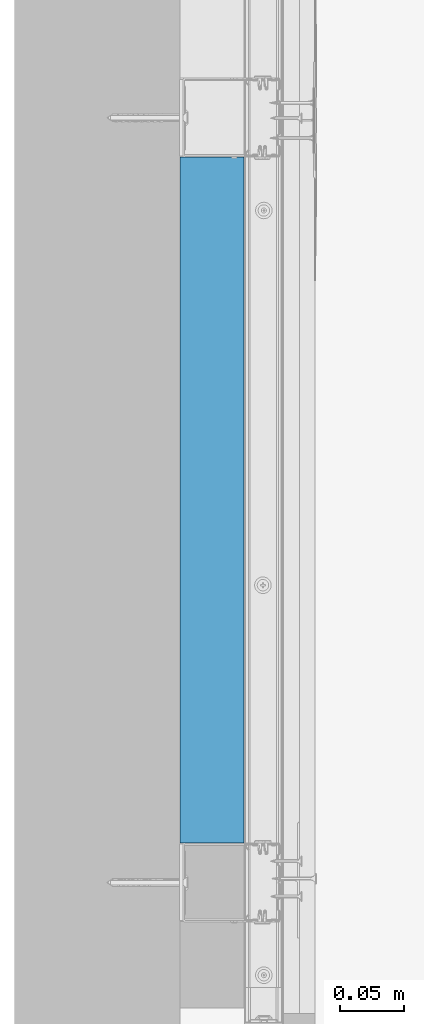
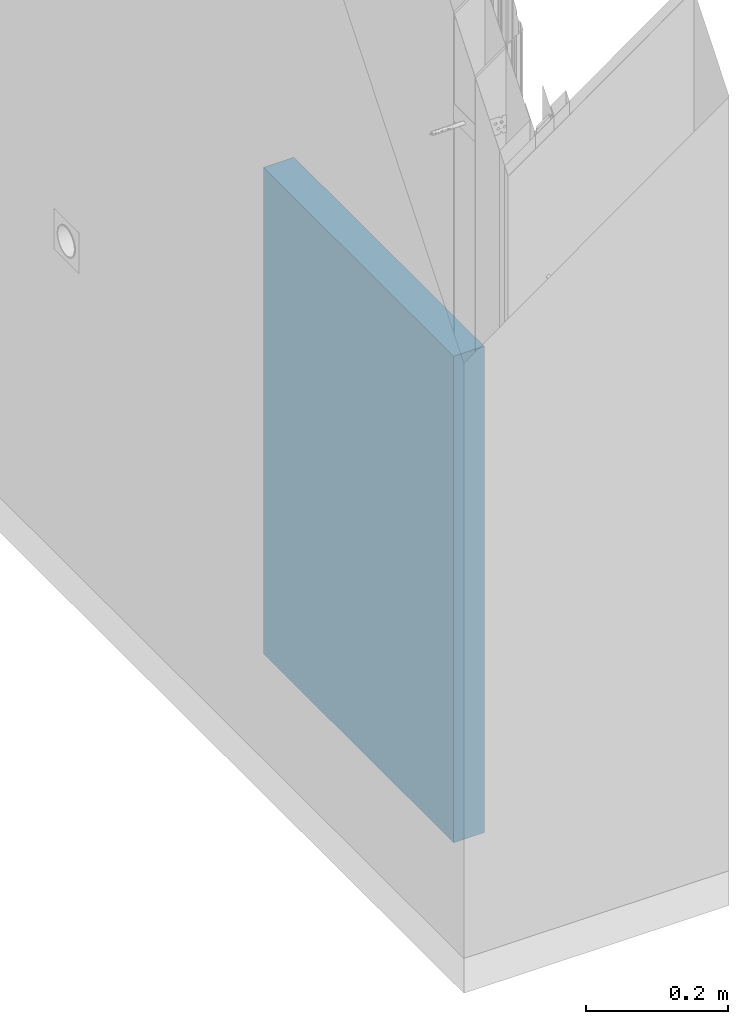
# One storey, part 6 of 61: 1 wall.
"""IFC2X3 building model written with IfcOpenShell, lengths in millimetres."""

import ifcopenshell
import ifcopenshell.guid

model = None  # the IFC model being written
_history = None  # IfcOwnerHistory: only IFC2X3 demands one
_inside = {}  # id of a spatial element -> (the spatial element, [elements in it])
_under = {}  # id of a project, library or spatial element -> (it, [spatial elements below it])
_declared = {}  # id of a project -> (the project, [libraries it declares])
_typed = {}  # id of a type object -> (the type object, [elements of that type])
_made_of = {}  # id of a material, layer set ... -> (it, [elements and type objects made of it])


def new_model(schema):
    """Start an empty IFC model of exactly this schema.

    Asked for "IFC4X3", IfcOpenShell would pick the latest addendum, in which some entities
    have other attributes; the version numbers below select the first issue.
    IFC2X3 requires an IfcOwnerHistory on every rooted entity: one is made here for all.
    """
    global model, _history
    if schema == "IFC4X3":
        model = ifcopenshell.file(schema_version=(4, 3, 0, 0))
    else:
        model = ifcopenshell.file(schema=schema)
    _inside.clear()
    _under.clear()
    _declared.clear()
    _typed.clear()
    _made_of.clear()
    _history = None
    if model.schema == "IFC2X3":
        org = make("IfcOrganization", Name="unknown")
        user = make(
            "IfcPersonAndOrganization",
            ThePerson=make("IfcPerson", FamilyName="unknown"),
            TheOrganization=org,
        )
        app = make(
            "IfcApplication",
            ApplicationDeveloper=org,
            Version="unknown",
            ApplicationFullName="unknown",
            ApplicationIdentifier="unknown",
        )
        _history = make(
            "IfcOwnerHistory",
            OwningUser=user,
            OwningApplication=app,
            ChangeAction="ADDED",
            CreationDate=0,
        )
    return model


def make(cls, **values):
    """One entity of the class cls with the attributes given. An attribute that is None is left unset."""
    return model.create_entity(
        cls, **{name: value for name, value in values.items() if value is not None}
    )


def rooted(cls, **values):
    """An entity with a GlobalId (a new one), such as an element, a storey or a relation."""
    return make(cls, GlobalId=ifcopenshell.guid.new(), OwnerHistory=_history, **values)


def si_unit(unit_type, name, prefix=None):
    """IfcSIUnit, for example si_unit("LENGTHUNIT", "METRE", prefix="MILLI")."""
    return make("IfcSIUnit", UnitType=unit_type, Prefix=prefix, Name=name)


def assignment(units):
    """IfcUnitAssignment: the units of a project."""
    return None if units is None else make("IfcUnitAssignment", Units=units)


def point(xyz):
    """IfcCartesianPoint."""
    return None if xyz is None else make("IfcCartesianPoint", Coordinates=xyz)


def direction(xyz):
    """IfcDirection."""
    return None if xyz is None else make("IfcDirection", DirectionRatios=xyz)


def frame(location, z_axis=None, x_axis=None):
    """IfcAxis2Placement3D, a coordinate frame: its origin and axes. An axis left out is left unset."""
    return make(
        "IfcAxis2Placement3D",
        Location=point(location),
        Axis=direction(z_axis),
        RefDirection=direction(x_axis),
    )


def origin_with_axes():
    """The frame at (0, 0, 0) with the z axis (0, 0, 1) and the x axis (1, 0, 0) written out."""
    return frame((0.0, 0.0, 0.0), z_axis=(0.0, 0.0, 1.0), x_axis=(1.0, 0.0, 0.0))


def place(relative_to, where):
    """IfcLocalPlacement: puts the frame where relative to a parent placement (None: the world)."""
    return make(
        "IfcLocalPlacement", PlacementRelTo=relative_to, RelativePlacement=where
    )


def context(
    kind, dimensions, precision=None, world=None, true_north=None, identifier=None
):
    """IfcGeometricRepresentationContext, for example the 3D "Model" context."""
    return make(
        "IfcGeometricRepresentationContext",
        ContextIdentifier=identifier,
        ContextType=kind,
        CoordinateSpaceDimension=dimensions,
        Precision=precision,
        WorldCoordinateSystem=world,
        TrueNorth=true_north,
    )


def subcontext(parent, identifier, kind, view, scale=None):
    """IfcGeometricRepresentationSubContext, for example "Body" below "Model"."""
    return make(
        "IfcGeometricRepresentationSubContext",
        ContextIdentifier=identifier,
        ContextType=kind,
        ParentContext=parent,
        TargetScale=scale,
        TargetView=view,
    )


def project(units=None, contexts=None):
    """IfcProject with its units and contexts."""
    return rooted(
        "IfcProject",
        Name="project",
        RepresentationContexts=contexts,
        UnitsInContext=assignment(units),
    )


def spatial(cls, under=None, at=None, **own):
    """A site, building, storey or space (cls), placed at a placement, below another one or the project."""
    s = rooted(cls, ObjectPlacement=at, **own)
    if under is not None:
        _under.setdefault(under.id(), (under, []))[1].append(s)
    return s


def faces_of(points, faces, orient=None, outer=None):
    """IfcFace entities. A face is a list of loops; a loop is a list of indices into points, from 0.

    orient and outer hold one flag for each loop. By default every Orientation is true, the
    first loop of a face is its IfcFaceOuterBound and the others are IfcFaceBound.
    """
    made = []
    for i, loops in enumerate(faces):
        bounds = []
        for j, loop in enumerate(loops):
            is_outer = j == 0 if outer is None else outer[i][j]
            bounds.append(
                make(
                    "IfcFaceOuterBound" if is_outer else "IfcFaceBound",
                    Bound=make("IfcPolyLoop", Polygon=[points[k] for k in loop]),
                    Orientation=True if orient is None else orient[i][j],
                )
            )
        made.append(make("IfcFace", Bounds=bounds))
    return made


def faceted_brep(points, faces, orient=None, outer=None, voids=None):
    """IfcFacetedBrep: a solid bounded by flat faces; with voids (closed shells), ...WithVoids."""
    shared = [point(p) for p in points]
    hull = make("IfcClosedShell", CfsFaces=faces_of(shared, faces, orient, outer))
    if voids is None:
        return make("IfcFacetedBrep", Outer=hull)
    return make(
        "IfcFacetedBrepWithVoids",
        Outer=hull,
        Voids=[
            make(cls, CfsFaces=faces_of(shared, fs, o, b)) for cls, fs, o, b in voids
        ],
    )


def shape(context_of_items, identifier, shape_type, items):
    """IfcShapeRepresentation: the items that make up one representation, for example the "Body"."""
    return make(
        "IfcShapeRepresentation",
        ContextOfItems=context_of_items,
        RepresentationIdentifier=identifier,
        RepresentationType=shape_type,
        Items=items,
    )


def material(Name=None, Category=None):
    """IfcMaterial."""
    return make("IfcMaterial", Name=Name, Category=Category)


def made_of(thing, what):
    """Note that an element or type object is made of a material, layer set ...; save() writes the relation."""
    if what is not None:
        _made_of.setdefault(what.id(), (what, []))[1].append(thing)
    return thing


def type_object(cls, material=None, **own):
    """A type object (cls), such as IfcWallType, which elements share."""
    return made_of(rooted(cls, **own), material)


def element(
    cls,
    number,
    at=None,
    inside=None,
    cuts=None,
    type_object=None,
    material=None,
    context=None,
    identifier="Body",
    shape_type=None,
    held_by="IfcProductDefinitionShape",
    body=None,
    shapes=None,
    **own,
):
    """One element of the class cls, such as IfcWall. Its Tag is "e" and its number.

    at: its placement. inside: the storey or other place that contains it. cuts: it is an
    opening in that element (IfcRelVoidsElement). A single representation is given by context,
    identifier, shape_type and body (its items); several are given by shapes. held_by: the class
    of the entity that holds the representations. save() writes the other relations.
    """
    e = rooted(cls, Tag="e%d" % number, ObjectPlacement=at, **own)
    if body is not None:
        shapes = [shape(context, identifier, shape_type, body)]
    if shapes is not None:
        e.Representation = make(held_by, Representations=shapes)
    if inside is not None:
        _inside.setdefault(inside.id(), (inside, []))[1].append(e)
    if cuts is not None:
        rooted(
            "IfcRelVoidsElement", RelatingBuildingElement=cuts, RelatedOpeningElement=e
        )
    if type_object is not None:
        _typed.setdefault(type_object.id(), (type_object, []))[1].append(e)
    return made_of(e, material)


def aggregate(whole, parts):
    """IfcRelAggregates: a whole, such as a stair, and the parts it consists of."""
    return rooted("IfcRelAggregates", RelatingObject=whole, RelatedObjects=parts)


def save(model, path):
    """Write the relations noted so far, then the file.

    IfcRelAggregates (storeys below a building ...), IfcRelContainedInSpatialStructure (elements
    in a storey), IfcRelDefinesByType, IfcRelAssociatesMaterial and IfcRelDeclares: one each for
    every whole, place, type object, material and project.
    """
    for whole, parts in _under.values():
        aggregate(whole, parts)
    for where, things in _inside.values():
        rooted(
            "IfcRelContainedInSpatialStructure",
            RelatedElements=things,
            RelatingStructure=where,
        )
    for kind, things in _typed.values():
        rooted("IfcRelDefinesByType", RelatedObjects=things, RelatingType=kind)
    for what, things in _made_of.values():
        rooted("IfcRelAssociatesMaterial", RelatedObjects=things, RelatingMaterial=what)
    for by, libraries in _declared.values():
        rooted("IfcRelDeclares", RelatingContext=by, RelatedDefinitions=libraries)
    model.write(path)


model = new_model("IFC2X3")

# Units and contexts
model_context = context("Model", 3, world=origin_with_axes())
body_context = subcontext(model_context, "Body", "Model", "MODEL_VIEW")
ifc_project = project(units=[si_unit("LENGTHUNIT", "METRE", prefix="MILLI"), si_unit("AREAUNIT", "SQUARE_METRE"), si_unit("VOLUMEUNIT", "CUBIC_METRE")], contexts=[model_context])

# Site, building, storey
site_placement = place(None, frame((2152.1410261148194, -2015.0250894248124, 57.61556563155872), z_axis=(0.0, 0.0, 1.0), x_axis=(-1.1102230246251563e-16, 1.0, 0.0)))
site = spatial("IfcSite", under=ifc_project, at=site_placement, Name="Default Site", CompositionType="ELEMENT")
building_placement = place(site_placement, origin_with_axes())
building = spatial("IfcBuilding", under=site, at=building_placement, Name="Default Building", CompositionType="ELEMENT")
storey_placement = place(building_placement, origin_with_axes())
storey = spatial("IfcBuildingStorey", under=building, at=storey_placement, Name="Default Building Storey", CompositionType="ELEMENT", Elevation=57.61556563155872)

# Wall
ifc_material = material(Name="Undefined")
wall_type = type_object("IfcWallType", Name="Wypełnienie z wełny mineralnej szklanej ISOVER#15", PredefinedType="NOTDEFINED")
wall_placement = place(storey_placement, frame((2102.576545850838, 5350.42414647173, -7.900000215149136), z_axis=(0.0, 0.0, 1.0), x_axis=(-1.0, 4.718447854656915e-16, 0.0)))
element("IfcWall", 1, at=wall_placement, inside=storey, type_object=wall_type, material=ifc_material, Name="Wypełnienie z wełny mineralnej szklanej ISOVER", context=body_context, shape_type="Brep", body=[
    faceted_brep([(-166.46054244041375, 3328.2832634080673, 10.28402615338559), (-166.4605424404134, 3378.2831687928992, 10.28402615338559), (-166.4605424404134, 3378.2831687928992, 849.5436077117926), (-166.46054244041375, 3328.2832634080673, 849.5436077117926), (-704.4605239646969, 3328.2832634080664, 849.5436077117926), (-704.4605239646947, 3378.283168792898, 849.5436077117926), (-704.4605239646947, 3378.283168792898, 10.28402615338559), (-704.4605239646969, 3328.2832634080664, 10.28402615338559)], [[[0, 1, 2, 3]], [[4, 5, 6, 7]], [[4, 3, 2, 5]]]),
    faceted_brep([(-704.4605239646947, 3378.283168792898, 849.5436077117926), (-166.4605424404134, 3378.2831687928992, 849.5436077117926), (-166.4605424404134, 3378.2831687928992, 10.28402615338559), (-704.4605239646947, 3378.283168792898, 10.28402615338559), (-166.46054244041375, 3328.2832634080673, 10.28402615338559), (-704.4605239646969, 3328.2832634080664, 10.28402615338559), (-166.46054244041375, 3328.2832634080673, 849.5436077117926), (-704.4605239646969, 3328.2832634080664, 849.5436077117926)], [[[0, 1, 2, 3]], [[3, 2, 4, 5]], [[5, 4, 6, 7]]]),
])

save(model, "model.ifc")
